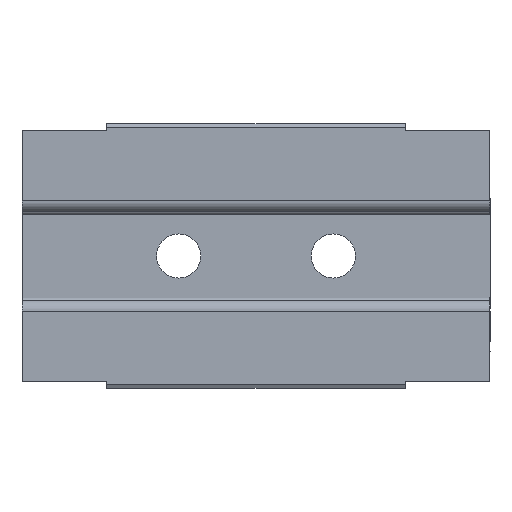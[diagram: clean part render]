
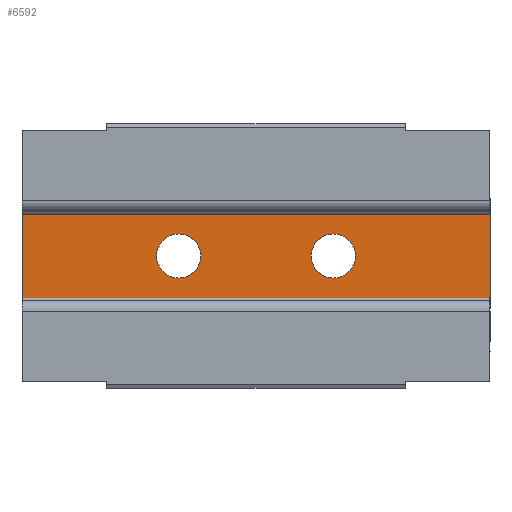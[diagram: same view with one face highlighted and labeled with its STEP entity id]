
A CAD part, front view. The second image highlights one B-rep face of the part: STEP entity #6592.
In plain terms, the highlighted planar face has unit normal (0, -1, 0).
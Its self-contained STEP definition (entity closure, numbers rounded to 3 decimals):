
#3114 = CARTESIAN_POINT ( 'NONE',  ( -60.6, 3.5, -2.3 ) ) ;
#6587 = EDGE_CURVE ( 'NONE', #10183, #10185, #13327, .T. ) ;
#6592 = ADVANCED_FACE ( 'NONE', ( #13328, #13361, #13359 ), #13357, .F. ) ;
#6601 = ORIENTED_EDGE ( 'NONE', *, *, #6587, .F. ) ;
#6680 = EDGE_LOOP ( 'NONE', ( #6681, #6682 ) ) ;
#6681 = ORIENTED_EDGE ( 'NONE', *, *, #6818, .T. ) ;
#6682 = ORIENTED_EDGE ( 'NONE', *, *, #10382, .T. ) ;
#6683 = EDGE_LOOP ( 'NONE', ( #6684, #6601 ) ) ;
#6684 = ORIENTED_EDGE ( 'NONE', *, *, #10206, .F. ) ;
#6812 = EDGE_LOOP ( 'NONE', ( #6813, #6860, #6862, #6865 ) ) ;
#6813 = ORIENTED_EDGE ( 'NONE', *, *, #11636, .T. ) ;
#6818 = EDGE_CURVE ( 'NONE', #10370, #10372, #14425, .T. ) ;
#6860 = ORIENTED_EDGE ( 'NONE', *, *, #6861, .T. ) ;
#6861 = EDGE_CURVE ( 'NONE', #11926, #11579, #14580, .T. ) ;
#6862 = ORIENTED_EDGE ( 'NONE', *, *, #11307, .T. ) ;
#6865 = ORIENTED_EDGE ( 'NONE', *, *, #6866, .T. ) ;
#6866 = EDGE_CURVE ( 'NONE', #11318, #11632, #14735, .T. ) ;
#10183 = VERTEX_POINT ( 'NONE', #17763 ) ;
#10185 = VERTEX_POINT ( 'NONE', #17786 ) ;
#10206 = EDGE_CURVE ( 'NONE', #10185, #10183, #17204, .T. ) ;
#10370 = VERTEX_POINT ( 'NONE', #17567 ) ;
#10372 = VERTEX_POINT ( 'NONE', #17607 ) ;
#10382 = EDGE_CURVE ( 'NONE', #10372, #10370, #17603, .T. ) ;
#11307 = EDGE_CURVE ( 'NONE', #11579, #11318, #13354, .T. ) ;
#11318 = VERTEX_POINT ( 'NONE', #13508 ) ;
#11579 = VERTEX_POINT ( 'NONE', #15668 ) ;
#11632 = VERTEX_POINT ( 'NONE', #16197 ) ;
#11636 = EDGE_CURVE ( 'NONE', #11632, #11926, #16196, .T. ) ;
#11926 = VERTEX_POINT ( 'NONE', #3114 ) ;
#13323 = DIRECTION ( 'NONE',  ( 0., 0., 1. ) ) ;
#13324 = DIRECTION ( 'NONE',  ( 0., -1., 0. ) ) ;
#13325 = CARTESIAN_POINT ( 'NONE',  ( -46.5, 3.5, 0. ) ) ;
#13326 = AXIS2_PLACEMENT_3D ( 'NONE', #13325, #13324, #13323 ) ;
#13327 = CIRCLE ( 'NONE', #13326, 1. ) ;
#13328 = FACE_OUTER_BOUND ( 'NONE', #6812, .T. ) ;
#13333 = CARTESIAN_POINT ( 'NONE',  ( -39.4, 3.5, -2.5 ) ) ;
#13354 = LINE ( 'NONE', #13333, #13416 ) ;
#13357 = PLANE ( 'NONE',  #13408 ) ;
#13359 = FACE_BOUND ( 'NONE', #6683, .T. ) ;
#13361 = FACE_BOUND ( 'NONE', #6680, .T. ) ;
#13360 = DIRECTION ( 'NONE',  ( 0., 0., 1. ) ) ;
#13405 = DIRECTION ( 'NONE',  ( 0., 0., 1. ) ) ;
#13406 = DIRECTION ( 'NONE',  ( 0., 1., 0. ) ) ;
#13407 = CARTESIAN_POINT ( 'NONE',  ( -38., 3.5, 0. ) ) ;
#13408 = AXIS2_PLACEMENT_3D ( 'NONE', #13407, #13406, #13405 ) ;
#13416 = VECTOR ( 'NONE', #13360, 1000. ) ;
#13508 = CARTESIAN_POINT ( 'NONE',  ( -39.4, 3.5, 2.3 ) ) ;
#14418 = DIRECTION ( 'NONE',  ( 0., 0., 1. ) ) ;
#14420 = DIRECTION ( 'NONE',  ( 0., 1., 0. ) ) ;
#14422 = CARTESIAN_POINT ( 'NONE',  ( -53.5, 3.5, 0. ) ) ;
#14424 = AXIS2_PLACEMENT_3D ( 'NONE', #14422, #14420, #14418 ) ;
#14425 = CIRCLE ( 'NONE', #14424, 1. ) ;
#14577 = DIRECTION ( 'NONE',  ( 1., 0., 0. ) ) ;
#14578 = VECTOR ( 'NONE', #14577, 1000. ) ;
#14579 = CARTESIAN_POINT ( 'NONE',  ( -39.4, 3.5, -2.3 ) ) ;
#14580 = LINE ( 'NONE', #14579, #14578 ) ;
#14732 = DIRECTION ( 'NONE',  ( -1., 0., 0. ) ) ;
#14733 = VECTOR ( 'NONE', #14732, 1000. ) ;
#14734 = CARTESIAN_POINT ( 'NONE',  ( -60.6, 3.5, 2.3 ) ) ;
#14735 = LINE ( 'NONE', #14734, #14733 ) ;
#15668 = CARTESIAN_POINT ( 'NONE',  ( -39.4, 3.5, -2.3 ) ) ;
#16196 = LINE ( 'NONE', #16202, #16201 ) ;
#16197 = CARTESIAN_POINT ( 'NONE',  ( -60.6, 3.5, 2.3 ) ) ;
#16200 = DIRECTION ( 'NONE',  ( 0., 0., -1. ) ) ;
#16201 = VECTOR ( 'NONE', #16200, 1000. ) ;
#16202 = CARTESIAN_POINT ( 'NONE',  ( -60.6, 3.5, -2.5 ) ) ;
#17190 = AXIS2_PLACEMENT_3D ( 'NONE', #17230, #17229, #17228 ) ;
#17204 = CIRCLE ( 'NONE', #17190, 1. ) ;
#17228 = DIRECTION ( 'NONE',  ( 0., 0., 1. ) ) ;
#17229 = DIRECTION ( 'NONE',  ( 0., -1., 0. ) ) ;
#17230 = CARTESIAN_POINT ( 'NONE',  ( -46.5, 3.5, 0. ) ) ;
#17567 = CARTESIAN_POINT ( 'NONE',  ( -53.5, 3.5, 1. ) ) ;
#17576 = DIRECTION ( 'NONE',  ( 0., 0., 1. ) ) ;
#17577 = DIRECTION ( 'NONE',  ( 0., 1., 0. ) ) ;
#17578 = CARTESIAN_POINT ( 'NONE',  ( -53.5, 3.5, 0. ) ) ;
#17579 = AXIS2_PLACEMENT_3D ( 'NONE', #17578, #17577, #17576 ) ;
#17603 = CIRCLE ( 'NONE', #17579, 1. ) ;
#17607 = CARTESIAN_POINT ( 'NONE',  ( -53.5, 3.5, -1. ) ) ;
#17763 = CARTESIAN_POINT ( 'NONE',  ( -46.5, 3.5, -1. ) ) ;
#17786 = CARTESIAN_POINT ( 'NONE',  ( -46.5, 3.5, 1. ) ) ;
